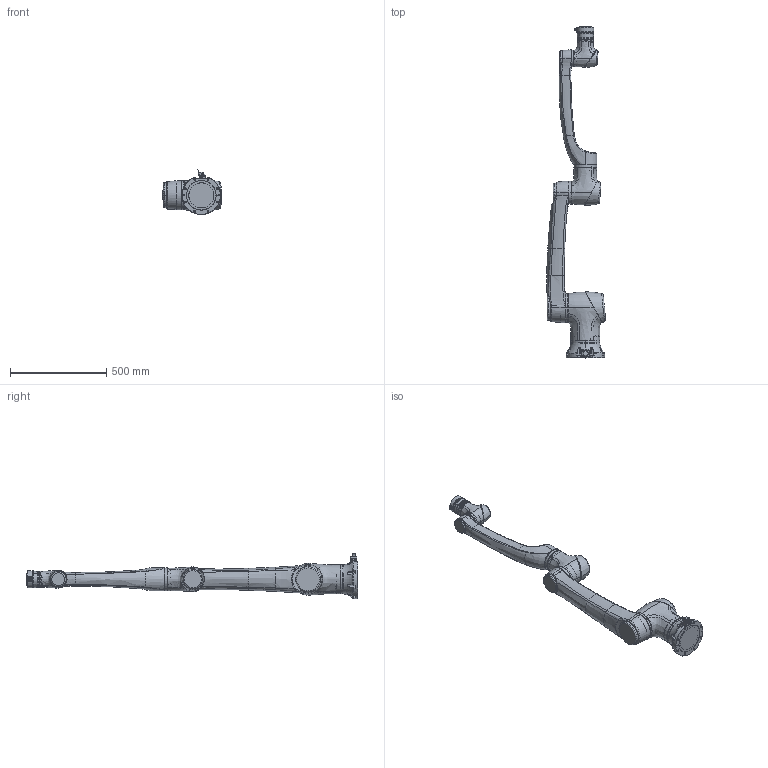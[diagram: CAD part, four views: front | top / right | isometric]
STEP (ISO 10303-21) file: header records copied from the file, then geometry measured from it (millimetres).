
FILE_DESCRIPTION (( 'STEP AP203' ), '1' );
FILE_NAME ('P10-L_潠趙_full.STEP', '2021-07-12T09:39:29', ( 'hans' ), ( 'hanslaser.com' ), 'SwSTEP 2.0', 'SolidWorks 2020', '' );
FILE_SCHEMA (( 'CONFIG_CONTROL_DESIGN' ));
Products named in the file (8): P_10kg菁釱_潠趙_full; P_25_2_潠趙_full; P_32_潠趙_full; P_17_潠趙_full; 17_IO藺傷_潠趙_full; P10-L_奻旋_潠趙_full; P10-L_潠趙_full; P10-L_狟旋_潠趙_full
Assembly tree (7 placements, depth 2):
  P10-L_潠趙_full
    P10-L_奻旋_潠趙_full
    P10-L_狟旋_潠趙_full
    P_10kg菁釱_潠趙_full
    P_25_2_潠趙_full
    P_32_潠趙_full
    P_17_潠趙_full
    17_IO藺傷_潠趙_full
Bounding box: 307.14 x 1728 x 234.44 mm (x, y, z)
Volume: 9134515.8 mm3; surface area: 2077322.5 mm2
Topology: 26 solids, 44 shells, 2053 faces, 4900 edges, 3014 vertices
Faces by surface type: bspline 670, cylinder 601, plane 440, cone 238, torus 58, sphere 46
Entity records: 265754 total; most frequent: CARTESIAN_POINT 222517, ORIENTED_EDGE 9692, DIRECTION 7414, EDGE_CURVE 4848, AXIS2_PLACEMENT_3D 3046, VERTEX_POINT 3010, EDGE_LOOP 2258, ADVANCED_FACE 2053
